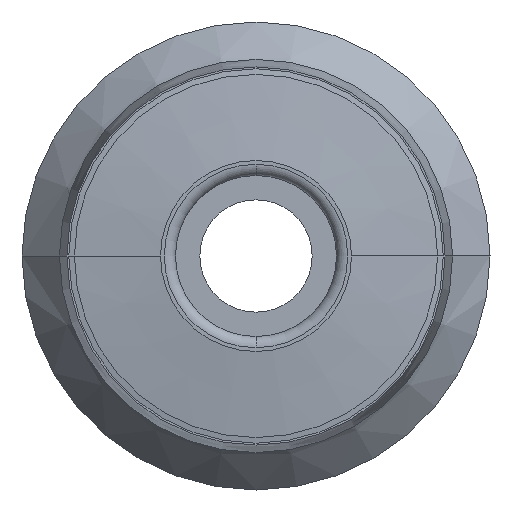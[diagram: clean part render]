
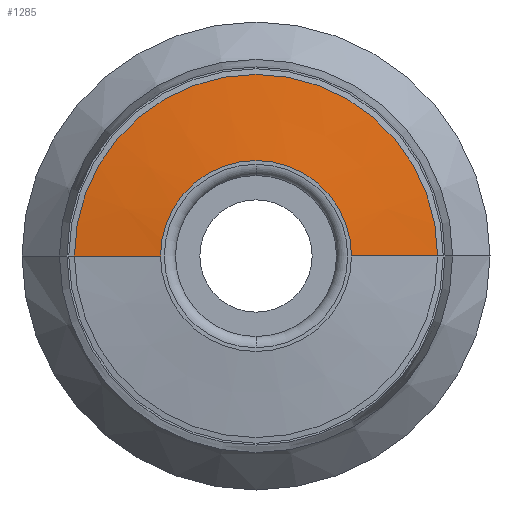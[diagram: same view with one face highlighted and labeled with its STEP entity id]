
A CAD part, front view. The second image highlights one B-rep face of the part: STEP entity #1285.
In plain terms, the highlighted conical face has half-angle 82.569 degrees and reference radius 3.7 mm.
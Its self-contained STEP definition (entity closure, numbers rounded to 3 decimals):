
#83 = VECTOR ( 'NONE', #597, 1000. ) ;
#121 = CARTESIAN_POINT ( 'NONE',  ( 3.7, 0.15, 0. ) ) ;
#125 = VERTEX_POINT ( 'NONE', #177 ) ;
#132 = VECTOR ( 'NONE', #324, 1000. ) ;
#177 = CARTESIAN_POINT ( 'NONE',  ( 2.55, 0., 0. ) ) ;
#179 = CARTESIAN_POINT ( 'NONE',  ( -4.85, 0.3, 0. ) ) ;
#210 = CARTESIAN_POINT ( 'NONE',  ( 4.85, 0.3, 0. ) ) ;
#220 = ORIENTED_EDGE ( 'NONE', *, *, #423, .F. ) ;
#324 = DIRECTION ( 'NONE',  ( -0.992, 0.129, 0. ) ) ;
#339 = LINE ( 'NONE', #121, #83 ) ;
#355 = AXIS2_PLACEMENT_3D ( 'NONE', #442, #1279, #907 ) ;
#408 = DIRECTION ( 'NONE',  ( -1., 0., 0. ) ) ;
#418 = DIRECTION ( 'NONE',  ( 0., 1., 0. ) ) ;
#423 = EDGE_CURVE ( 'NONE', #1052, #1506, #1519, .T. ) ;
#442 = CARTESIAN_POINT ( 'NONE',  ( 0., 0.15, 0. ) ) ;
#597 = DIRECTION ( 'NONE',  ( 0.992, 0.129, 0. ) ) ;
#640 = CARTESIAN_POINT ( 'NONE',  ( -2.55, 0., 0. ) ) ;
#788 = DIRECTION ( 'NONE',  ( 0., 1., 0. ) ) ;
#811 = FACE_OUTER_BOUND ( 'NONE', #1139, .T. ) ;
#854 = CIRCLE ( 'NONE', #1456, 4.85 ) ;
#860 = VERTEX_POINT ( 'NONE', #210 ) ;
#888 = EDGE_CURVE ( 'NONE', #1052, #125, #1207, .T. ) ;
#907 = DIRECTION ( 'NONE',  ( -1., 0., 0. ) ) ;
#915 = CARTESIAN_POINT ( 'NONE',  ( 0., 0., 0. ) ) ;
#948 = AXIS2_PLACEMENT_3D ( 'NONE', #915, #418, #1364 ) ;
#997 = CONICAL_SURFACE ( 'NONE', #355, 3.7, 1.441 ) ;
#1036 = CARTESIAN_POINT ( 'NONE',  ( 0., 0.3, 0. ) ) ;
#1052 = VERTEX_POINT ( 'NONE', #640 ) ;
#1139 = EDGE_LOOP ( 'NONE', ( #1274, #1307, #1455, #220 ) ) ;
#1207 = CIRCLE ( 'NONE', #948, 2.55 ) ;
#1253 = EDGE_CURVE ( 'NONE', #1506, #860, #854, .T. ) ;
#1274 = ORIENTED_EDGE ( 'NONE', *, *, #888, .T. ) ;
#1279 = DIRECTION ( 'NONE',  ( 0., 1., 0. ) ) ;
#1285 = ADVANCED_FACE ( 'NONE', ( #811 ), #997, .T. ) ;
#1307 = ORIENTED_EDGE ( 'NONE', *, *, #1474, .T. ) ;
#1357 = CARTESIAN_POINT ( 'NONE',  ( -3.7, 0.15, 0. ) ) ;
#1364 = DIRECTION ( 'NONE',  ( -1., 0., 0. ) ) ;
#1455 = ORIENTED_EDGE ( 'NONE', *, *, #1253, .F. ) ;
#1456 = AXIS2_PLACEMENT_3D ( 'NONE', #1036, #788, #408 ) ;
#1474 = EDGE_CURVE ( 'NONE', #125, #860, #339, .T. ) ;
#1506 = VERTEX_POINT ( 'NONE', #179 ) ;
#1519 = LINE ( 'NONE', #1357, #132 ) ;
